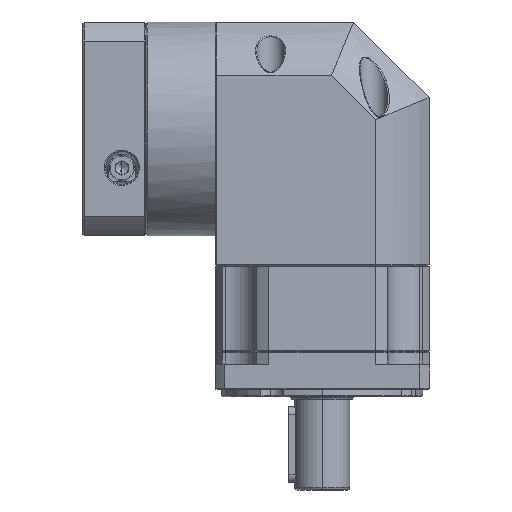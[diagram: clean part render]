
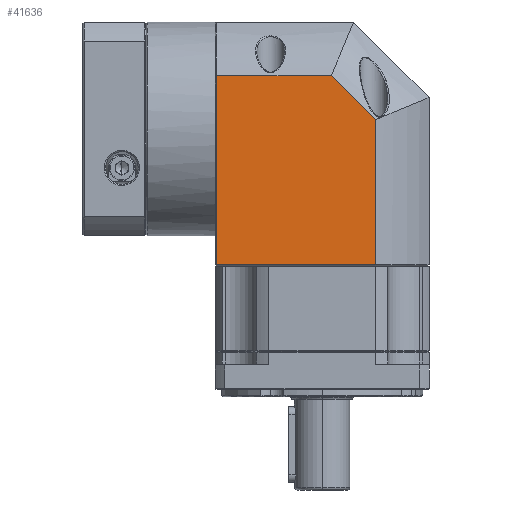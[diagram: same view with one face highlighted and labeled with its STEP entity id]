
A CAD part, left-side view. The second image highlights one B-rep face of the part: STEP entity #41636.
In plain terms, the highlighted planar face has unit normal (-1, 0, 0).
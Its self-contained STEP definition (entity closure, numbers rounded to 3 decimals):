
#1753 = AXIS2_PLACEMENT_3D ( 'NONE', #58105, #56719, #122309 ) ;
#6657 = CARTESIAN_POINT ( 'NONE',  ( -73.151, 3.836, -3.751 ) ) ;
#7606 = VECTOR ( 'NONE', #119032, 1000. ) ;
#9304 = ORIENTED_EDGE ( 'NONE', *, *, #17817, .T. ) ;
#12463 = CARTESIAN_POINT ( 'NONE',  ( -73.151, 67.049, -61.434 ) ) ;
#13092 = CARTESIAN_POINT ( 'NONE',  ( -73.151, 21.366, 13.779 ) ) ;
#16179 = CARTESIAN_POINT ( 'NONE',  ( -73.151, 67.549, 13.779 ) ) ;
#16230 = ORIENTED_EDGE ( 'NONE', *, *, #34551, .F. ) ;
#17817 = EDGE_CURVE ( 'NONE', #18104, #89732, #69611, .T. ) ;
#18104 = VERTEX_POINT ( 'NONE', #12463 ) ;
#19403 = CARTESIAN_POINT ( 'NONE',  ( -73.151, 3.836, 38.566 ) ) ;
#23452 = LINE ( 'NONE', #19403, #111321 ) ;
#26986 = DIRECTION ( 'NONE',  ( 0., -1., 0. ) ) ;
#27080 = VECTOR ( 'NONE', #51910, 1000. ) ;
#28847 = LINE ( 'NONE', #29738, #27080 ) ;
#29738 = CARTESIAN_POINT ( 'NONE',  ( -73.151, 67.049, 35.066 ) ) ;
#34551 = EDGE_CURVE ( 'NONE', #125281, #133310, #64979, .T. ) ;
#40835 = DIRECTION ( 'NONE',  ( 0., -1., 0. ) ) ;
#41636 = ADVANCED_FACE ( 'NONE', ( #48990 ), #45866, .F. ) ;
#45866 = PLANE ( 'NONE',  #1753 ) ;
#46495 = CARTESIAN_POINT ( 'NONE',  ( -73.151, 67.549, -61.434 ) ) ;
#48990 = FACE_OUTER_BOUND ( 'NONE', #111150, .T. ) ;
#51910 = DIRECTION ( 'NONE',  ( 0., 0., 1. ) ) ;
#56719 = DIRECTION ( 'NONE',  ( 1., 0., 0. ) ) ;
#58105 = CARTESIAN_POINT ( 'NONE',  ( -73.151, 67.549, 35.066 ) ) ;
#64979 = LINE ( 'NONE', #67132, #7606 ) ;
#67132 = CARTESIAN_POINT ( 'NONE',  ( -73.151, 21.366, 13.779 ) ) ;
#69611 = LINE ( 'NONE', #46495, #103271 ) ;
#77098 = EDGE_CURVE ( 'NONE', #133310, #89732, #23452, .T. ) ;
#80055 = ORIENTED_EDGE ( 'NONE', *, *, #120842, .F. ) ;
#81388 = CARTESIAN_POINT ( 'NONE',  ( -73.151, 67.049, 13.779 ) ) ;
#84473 = ORIENTED_EDGE ( 'NONE', *, *, #77098, .F. ) ;
#89732 = VERTEX_POINT ( 'NONE', #135656 ) ;
#93486 = DIRECTION ( 'NONE',  ( 0., 0., -1. ) ) ;
#103271 = VECTOR ( 'NONE', #40835, 1000. ) ;
#103542 = VERTEX_POINT ( 'NONE', #81388 ) ;
#107258 = VECTOR ( 'NONE', #26986, 1000. ) ;
#111150 = EDGE_LOOP ( 'NONE', ( #9304, #84473, #16230, #80055, #111645 ) ) ;
#111321 = VECTOR ( 'NONE', #93486, 1000. ) ;
#111645 = ORIENTED_EDGE ( 'NONE', *, *, #137542, .F. ) ;
#119032 = DIRECTION ( 'NONE',  ( 0., -0.707, -0.707 ) ) ;
#120842 = EDGE_CURVE ( 'NONE', #103542, #125281, #127589, .T. ) ;
#122309 = DIRECTION ( 'NONE',  ( 0., 1., 0. ) ) ;
#125281 = VERTEX_POINT ( 'NONE', #13092 ) ;
#127589 = LINE ( 'NONE', #16179, #107258 ) ;
#133310 = VERTEX_POINT ( 'NONE', #6657 ) ;
#135656 = CARTESIAN_POINT ( 'NONE',  ( -73.151, 3.836, -61.434 ) ) ;
#137542 = EDGE_CURVE ( 'NONE', #18104, #103542, #28847, .T. ) ;
